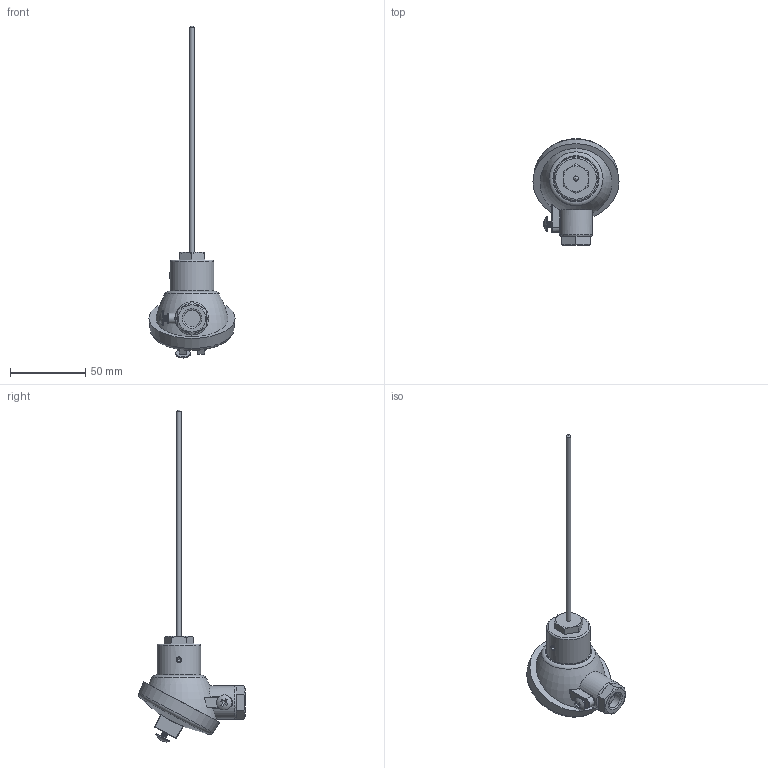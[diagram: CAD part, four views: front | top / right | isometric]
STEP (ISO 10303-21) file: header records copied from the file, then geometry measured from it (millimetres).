
FILE_DESCRIPTION (( 'STEP AP203' ), '1' );
FILE_NAME ('YIR30_3(0).STEP', '2024-12-12T01:13:37', ( '' ), ( '' ), 'SwSTEP 2.0', 'SolidWorks 2021', '' );
FILE_SCHEMA (( 'CONFIG_CONTROL_DESIGN' ));
Length unit declared in the file: millimetre
Products named in the file (1): YIR30_3(0)
Bounding box: 57 x 70.64 x 219.9 mm (x, y, z)
Volume: 79218 mm3; surface area: 15592.8 mm2
Topology: 1 solids, 2 shells, 186 faces, 445 edges, 275 vertices
Faces by surface type: plane 88, cylinder 47, bspline 19, cone 13, torus 11, sphere 8
Full cylindrical faces by diameter (mm): 3.2 x1, 3.5 x3, 3.6 x1, 3.8 x10, 10 x2, 11 x1, 16 x1, 16.5 x1, 22 x1, 29 x1
Entity records: 7863 total; most frequent: CARTESIAN_POINT 4280, ORIENTED_EDGE 714, DIRECTION 677, EDGE_CURVE 357, AXIS2_PLACEMENT_3D 263, VERTEX_POINT 230, EDGE_LOOP 217, FACE_OUTER_BOUND 195
